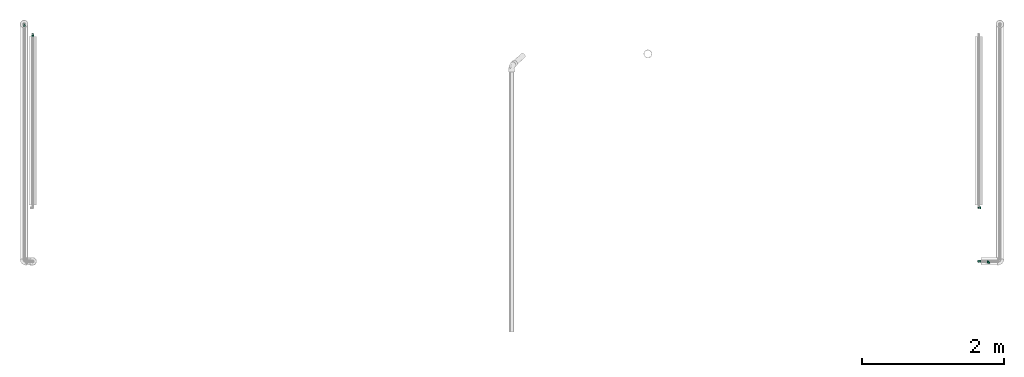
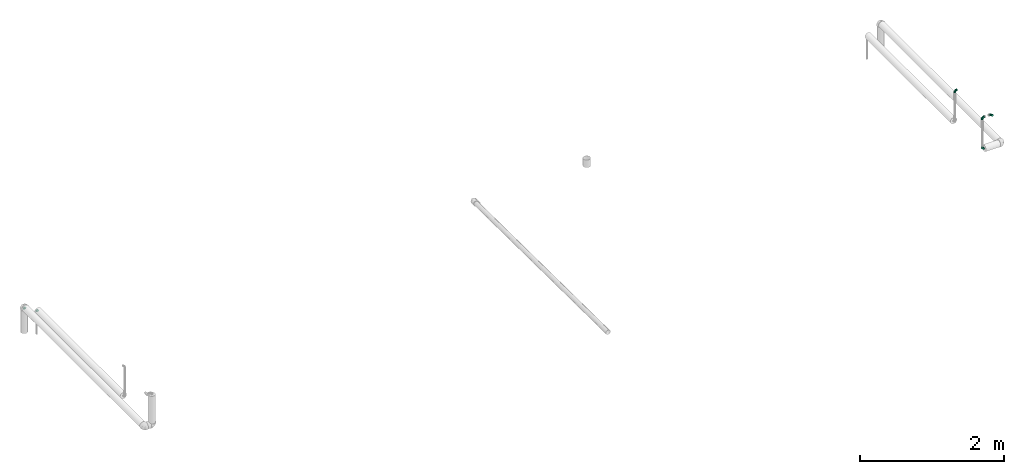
# One storey, part 10 of 17: 6 flow fittings.
"""IFC2X3 building model written with IfcOpenShell, lengths in millimetres."""

import ifcopenshell
import ifcopenshell.guid

model = None  # the IFC model being written
_history = None  # IfcOwnerHistory: only IFC2X3 demands one
_inside = {}  # id of a spatial element -> (the spatial element, [elements in it])
_under = {}  # id of a project, library or spatial element -> (it, [spatial elements below it])
_declared = {}  # id of a project -> (the project, [libraries it declares])
_typed = {}  # id of a type object -> (the type object, [elements of that type])
_made_of = {}  # id of a material, layer set ... -> (it, [elements and type objects made of it])


def new_model(schema):
    """Start an empty IFC model of exactly this schema.

    Asked for "IFC4X3", IfcOpenShell would pick the latest addendum, in which some entities
    have other attributes; the version numbers below select the first issue.
    IFC2X3 requires an IfcOwnerHistory on every rooted entity: one is made here for all.
    """
    global model, _history
    if schema == "IFC4X3":
        model = ifcopenshell.file(schema_version=(4, 3, 0, 0))
    else:
        model = ifcopenshell.file(schema=schema)
    _inside.clear()
    _under.clear()
    _declared.clear()
    _typed.clear()
    _made_of.clear()
    _history = None
    if model.schema == "IFC2X3":
        org = make("IfcOrganization", Name="unknown")
        user = make(
            "IfcPersonAndOrganization",
            ThePerson=make("IfcPerson", FamilyName="unknown"),
            TheOrganization=org,
        )
        app = make(
            "IfcApplication",
            ApplicationDeveloper=org,
            Version="unknown",
            ApplicationFullName="unknown",
            ApplicationIdentifier="unknown",
        )
        _history = make(
            "IfcOwnerHistory",
            OwningUser=user,
            OwningApplication=app,
            ChangeAction="ADDED",
            CreationDate=0,
        )
    return model


def make(cls, **values):
    """One entity of the class cls with the attributes given. An attribute that is None is left unset."""
    return model.create_entity(
        cls, **{name: value for name, value in values.items() if value is not None}
    )


def entity(cls, *values):
    """Any entity or typed value of the class cls, its attributes in the order of the schema. None: left unset."""
    e = model.create_entity(cls)
    for i, value in enumerate(values):
        if value is not None:
            e[i] = value
    return e


def rooted(cls, **values):
    """An entity with a GlobalId (a new one), such as an element, a storey or a relation."""
    return make(cls, GlobalId=ifcopenshell.guid.new(), OwnerHistory=_history, **values)


def si_unit(unit_type, name, prefix=None):
    """IfcSIUnit, for example si_unit("LENGTHUNIT", "METRE", prefix="MILLI")."""
    return make("IfcSIUnit", UnitType=unit_type, Prefix=prefix, Name=name)


def converted_unit(unit_type, name, factor, base, dimensions=None, offset=None):
    """IfcConversionBasedUnit, such as the inch: factor (a typed value) times the base unit."""
    return make(
        "IfcConversionBasedUnit"
        if offset is None
        else "IfcConversionBasedUnitWithOffset",
        ConversionOffset=offset,
        Dimensions=None
        if dimensions is None
        else entity("IfcDimensionalExponents", *dimensions),
        UnitType=unit_type,
        Name=name,
        ConversionFactor=make(
            "IfcMeasureWithUnit", ValueComponent=factor, UnitComponent=base
        ),
    )


def derived_unit(unit_type, elements):
    """IfcDerivedUnit: a product of units, each with its exponent."""
    return make(
        "IfcDerivedUnit",
        Elements=[
            make("IfcDerivedUnitElement", Unit=unit, Exponent=power)
            for unit, power in elements
        ],
        UnitType=unit_type,
    )


def assignment(units):
    """IfcUnitAssignment: the units of a project."""
    return None if units is None else make("IfcUnitAssignment", Units=units)


def point(xyz):
    """IfcCartesianPoint."""
    return None if xyz is None else make("IfcCartesianPoint", Coordinates=xyz)


def direction(xyz):
    """IfcDirection."""
    return None if xyz is None else make("IfcDirection", DirectionRatios=xyz)


def frame(location, z_axis=None, x_axis=None):
    """IfcAxis2Placement3D, a coordinate frame: its origin and axes. An axis left out is left unset."""
    return make(
        "IfcAxis2Placement3D",
        Location=point(location),
        Axis=direction(z_axis),
        RefDirection=direction(x_axis),
    )


def origin_with_axes():
    """The frame at (0, 0, 0) with the z axis (0, 0, 1) and the x axis (1, 0, 0) written out."""
    return frame((0.0, 0.0, 0.0), z_axis=(0.0, 0.0, 1.0), x_axis=(1.0, 0.0, 0.0))


def place(relative_to, where):
    """IfcLocalPlacement: puts the frame where relative to a parent placement (None: the world)."""
    return make(
        "IfcLocalPlacement", PlacementRelTo=relative_to, RelativePlacement=where
    )


def context(
    kind, dimensions, precision=None, world=None, true_north=None, identifier=None
):
    """IfcGeometricRepresentationContext, for example the 3D "Model" context."""
    return make(
        "IfcGeometricRepresentationContext",
        ContextIdentifier=identifier,
        ContextType=kind,
        CoordinateSpaceDimension=dimensions,
        Precision=precision,
        WorldCoordinateSystem=world,
        TrueNorth=true_north,
    )


def subcontext(parent, identifier, kind, view, scale=None):
    """IfcGeometricRepresentationSubContext, for example "Body" below "Model"."""
    return make(
        "IfcGeometricRepresentationSubContext",
        ContextIdentifier=identifier,
        ContextType=kind,
        ParentContext=parent,
        TargetScale=scale,
        TargetView=view,
    )


def project(units=None, contexts=None):
    """IfcProject with its units and contexts."""
    return rooted(
        "IfcProject",
        Name="project",
        RepresentationContexts=contexts,
        UnitsInContext=assignment(units),
    )


def spatial(cls, under=None, at=None, **own):
    """A site, building, storey or space (cls), placed at a placement, below another one or the project."""
    s = rooted(cls, ObjectPlacement=at, **own)
    if under is not None:
        _under.setdefault(under.id(), (under, []))[1].append(s)
    return s


def faces_of(points, faces, orient=None, outer=None):
    """IfcFace entities. A face is a list of loops; a loop is a list of indices into points, from 0.

    orient and outer hold one flag for each loop. By default every Orientation is true, the
    first loop of a face is its IfcFaceOuterBound and the others are IfcFaceBound.
    """
    made = []
    for i, loops in enumerate(faces):
        bounds = []
        for j, loop in enumerate(loops):
            is_outer = j == 0 if outer is None else outer[i][j]
            bounds.append(
                make(
                    "IfcFaceOuterBound" if is_outer else "IfcFaceBound",
                    Bound=make("IfcPolyLoop", Polygon=[points[k] for k in loop]),
                    Orientation=True if orient is None else orient[i][j],
                )
            )
        made.append(make("IfcFace", Bounds=bounds))
    return made


def open_shell(faces, orient=None, outer=None):
    """The faces of one IfcOpenShell. surface_model builds it on its shared points."""
    return ("IfcOpenShell", faces, orient, outer)


def surface_model(cls, points, shells):
    """IfcFaceBasedSurfaceModel or IfcShellBasedSurfaceModel (cls): surfaces that need not close."""
    shared = [point(p) for p in points]
    made = [make(c, CfsFaces=faces_of(shared, fs, o, b)) for c, fs, o, b in shells]
    if cls == "IfcFaceBasedSurfaceModel":
        return make(cls, FbsmFaces=made)
    return make(cls, SbsmBoundary=made)


def shape(context_of_items, identifier, shape_type, items):
    """IfcShapeRepresentation: the items that make up one representation, for example the "Body"."""
    return make(
        "IfcShapeRepresentation",
        ContextOfItems=context_of_items,
        RepresentationIdentifier=identifier,
        RepresentationType=shape_type,
        Items=items,
    )


def source(mapping_origin, context_of_items, identifier, shape_type, items):
    """IfcRepresentationMap: a shape defined once, which mapped items show again and again."""
    return make(
        "IfcRepresentationMap",
        MappingOrigin=mapping_origin,
        MappedRepresentation=shape(context_of_items, identifier, shape_type, items),
    )


def transform(
    local_origin,
    x_axis=None,
    y_axis=None,
    z_axis=None,
    scale=None,
    scale2=None,
    scale3=None,
    uniform=True,
):
    """IfcCartesianTransformationOperator3D, or its non-uniform kind. x_axis, y_axis, z_axis: its Axis1, 2, 3."""
    if uniform:
        return make(
            "IfcCartesianTransformationOperator3D",
            Axis1=direction(x_axis),
            Axis2=direction(y_axis),
            LocalOrigin=point(local_origin),
            Scale=scale,
            Axis3=direction(z_axis),
        )
    return make(
        "IfcCartesianTransformationOperator3DnonUniform",
        Axis1=direction(x_axis),
        Axis2=direction(y_axis),
        LocalOrigin=point(local_origin),
        Scale=scale,
        Axis3=direction(z_axis),
        Scale2=scale2,
        Scale3=scale3,
    )


def mapped(mapping_source, mapping_target):
    """IfcMappedItem: shows the shape of a source again, moved by a transform."""
    return make(
        "IfcMappedItem", MappingSource=mapping_source, MappingTarget=mapping_target
    )


def made_of(thing, what):
    """Note that an element or type object is made of a material, layer set ...; save() writes the relation."""
    if what is not None:
        _made_of.setdefault(what.id(), (what, []))[1].append(thing)
    return thing


def type_object(cls, material=None, **own):
    """A type object (cls), such as IfcWallType, which elements share."""
    return made_of(rooted(cls, **own), material)


def element(
    cls,
    number,
    at=None,
    inside=None,
    cuts=None,
    type_object=None,
    material=None,
    context=None,
    identifier="Body",
    shape_type=None,
    held_by="IfcProductDefinitionShape",
    body=None,
    shapes=None,
    **own,
):
    """One element of the class cls, such as IfcWall. Its Tag is "e" and its number.

    at: its placement. inside: the storey or other place that contains it. cuts: it is an
    opening in that element (IfcRelVoidsElement). A single representation is given by context,
    identifier, shape_type and body (its items); several are given by shapes. held_by: the class
    of the entity that holds the representations. save() writes the other relations.
    """
    e = rooted(cls, Tag="e%d" % number, ObjectPlacement=at, **own)
    if body is not None:
        shapes = [shape(context, identifier, shape_type, body)]
    if shapes is not None:
        e.Representation = make(held_by, Representations=shapes)
    if inside is not None:
        _inside.setdefault(inside.id(), (inside, []))[1].append(e)
    if cuts is not None:
        rooted(
            "IfcRelVoidsElement", RelatingBuildingElement=cuts, RelatedOpeningElement=e
        )
    if type_object is not None:
        _typed.setdefault(type_object.id(), (type_object, []))[1].append(e)
    return made_of(e, material)


def aggregate(whole, parts):
    """IfcRelAggregates: a whole, such as a stair, and the parts it consists of."""
    return rooted("IfcRelAggregates", RelatingObject=whole, RelatedObjects=parts)


def save(model, path):
    """Write the relations noted so far, then the file.

    IfcRelAggregates (storeys below a building ...), IfcRelContainedInSpatialStructure (elements
    in a storey), IfcRelDefinesByType, IfcRelAssociatesMaterial and IfcRelDeclares: one each for
    every whole, place, type object, material and project.
    """
    for whole, parts in _under.values():
        aggregate(whole, parts)
    for where, things in _inside.values():
        rooted(
            "IfcRelContainedInSpatialStructure",
            RelatedElements=things,
            RelatingStructure=where,
        )
    for kind, things in _typed.values():
        rooted("IfcRelDefinesByType", RelatedObjects=things, RelatingType=kind)
    for what, things in _made_of.values():
        rooted("IfcRelAssociatesMaterial", RelatedObjects=things, RelatingMaterial=what)
    for by, libraries in _declared.values():
        rooted("IfcRelDeclares", RelatingContext=by, RelatedDefinitions=libraries)
    model.write(path)


model = new_model("IFC2X3")

# Units and contexts
model_context = context("Model", 3, precision=0.01, world=frame((0.0, 4.29681676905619e-09, 0.0)), true_north=direction((4.01073788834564e-13, 1.0)))
plan_context = context("Plan", 3, precision=0.01, world=frame((0.0, 4.29681676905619e-09, 0.0)), true_north=direction((4.01073788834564e-13, 1.0)))
body_context = subcontext(model_context, "Body", "Model", "MODEL_VIEW")
ifc_project = project(units=[converted_unit("PLANEANGLEUNIT", "DEGREE", entity("IfcPositiveLengthMeasure", 0.0174532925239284), si_unit("PLANEANGLEUNIT", "RADIAN"), dimensions=[0, 0, 0, 0, 0, 0, 0]), si_unit("AREAUNIT", "SQUARE_METRE"), si_unit("LENGTHUNIT", "METRE", prefix="MILLI"), si_unit("MASSUNIT", "GRAM", prefix="KILO"), si_unit("POWERUNIT", "WATT"), si_unit("PRESSUREUNIT", "PASCAL", prefix="KILO"), si_unit("FORCEUNIT", "NEWTON", prefix="KILO"), si_unit("ELECTRICVOLTAGEUNIT", "VOLT"), si_unit("ELECTRICCURRENTUNIT", "AMPERE"), si_unit("THERMODYNAMICTEMPERATUREUNIT", "DEGREE_CELSIUS"), si_unit("TIMEUNIT", "SECOND"), si_unit("VOLUMEUNIT", "CUBIC_METRE"), derived_unit("LINEARVELOCITYUNIT", [(si_unit("LENGTHUNIT", "METRE"), 1), (si_unit("TIMEUNIT", "SECOND"), -1)]), derived_unit("VOLUMETRICFLOWRATEUNIT", [(si_unit("VOLUMEUNIT", "CUBIC_METRE"), 1), (si_unit("TIMEUNIT", "SECOND"), -1)]), derived_unit("THERMALTRANSMITTANCEUNIT", [(si_unit("POWERUNIT", "WATT"), 1), (si_unit("THERMODYNAMICTEMPERATUREUNIT", "KELVIN"), -1), (si_unit("AREAUNIT", "SQUARE_METRE"), -1)]), derived_unit("SOUNDPRESSUREUNIT", [(si_unit("PRESSUREUNIT", "PASCAL"), 1)])], contexts=[model_context, plan_context])

# Site, building, storey
site_placement = place(None, frame((0.0, -4.29681676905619e-09, 0.0), z_axis=(0.0, 0.0, 1.0), x_axis=(1.0, 0.0, 0.0)))
site = spatial("IfcSite", under=ifc_project, at=site_placement, Name="ENGM", CompositionType="ELEMENT")
building_placement = place(site_placement, frame((0.0, 4.29681676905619e-09, 0.0), z_axis=(0.0, 0.0, 1.0), x_axis=(1.0, 0.0, 0.0)))
building = spatial("IfcBuilding", under=site, at=building_placement, Name="TI", CompositionType="ELEMENT")
storey_placement = place(building_placement, frame((0.0, 0.0, 207370.0), z_axis=(0.0, 0.0, 1.0), x_axis=(1.0, 0.0, 0.0)))
storey = spatial("IfcBuildingStorey", under=building, at=storey_placement, Name="Nivå E", CompositionType="ELEMENT", Elevation=207370.0)

# Flow fittings
pipe_fitting_type = type_object("IfcPipeFittingType", Name="magi_pipe_fe_elbow_short_001", PredefinedType="BEND")
shared_shape_1 = source(origin_with_axes(), body_context, "Body", "SurfaceModel", [
    surface_model("IfcShellBasedSurfaceModel", [(-33.8, 4.37404, -16.32415), (-33.8, 0.0, -16.9), (-33.8, 11.9501, -11.9501), (-33.8, 8.45, -14.63583), (-33.8, 16.32415, -4.37404), (-33.8, 14.63583, -8.45), (-33.8, -14.63583, -8.45), (-33.8, -16.32415, -4.37404), (-33.8, -8.45, 14.63583), (-33.8, -11.9501, -11.9501), (-33.8, -8.45, -14.63583), (-33.8, -4.37404, -16.32415), (-33.8, -16.9, 0.0), (-33.8, -16.32415, 4.37404), (-33.8, 11.9501, 11.9501), (-33.8, 14.63583, 8.45), (-33.8, 16.32415, 4.37404), (-33.8, 4.37404, 16.32415), (-33.8, 8.45, 14.63583), (-33.8, -14.63583, 8.45), (-33.8, -11.9501, 11.9501), (-33.8, -4.37404, 16.32415), (-33.8, 0.0, 16.9), (-33.8, 16.9, 0.0), (-11.9501, 33.8, -11.9501), (0.0, 33.8, -16.9), (-4.37404, 33.8, -16.32415), (-8.45, 33.8, -14.63583), (-14.63583, 33.8, -8.45), (-16.32415, 33.8, -4.37404), (14.63583, 33.8, -8.45), (8.45, 33.8, 14.63583), (16.32415, 33.8, -4.37404), (8.45, 33.8, -14.63583), (11.9501, 33.8, -11.9501), (4.37404, 33.8, -16.32415), (16.32415, 33.8, 4.37404), (16.9, 33.8, 0.0), (-11.9501, 33.8, 11.9501), (-16.32415, 33.8, 4.37404), (-14.63583, 33.8, 8.45), (-8.45, 33.8, 14.63583), (-4.37404, 33.8, 16.32415), (11.9501, 33.8, 11.9501), (14.63583, 33.8, 8.45), (0.0, 33.8, 16.9), (4.37404, 33.8, 16.32415), (-16.9, 33.8, 0.0), (-24.79389, -13.12945, 9.48721), (-22.19287, -9.75018, 12.59315), (-24.09897, -14.97035, 0.0), (-14.93934, -10.76256, 8.5297), (-22.46095, -14.75051, 5.27077), (14.75051, 22.46094, 5.27077), (11.9251, 13.23888, 4.33236), (13.04069, 14.39795, 0.0), (7.71387, 13.68847, 11.55891), (9.75018, 22.19287, 12.59315), (4.10169, 13.0571, 14.04018), (-24.84007, -6.39063, 15.2048), (-25.81779, -2.23879, 16.61097), (-23.66549, 2.59054, 16.87119), (-26.50418, 14.06512, 11.08152), (-24.21253, 17.66365, 7.72657), (-29.58514, 15.86957, 7.00283), (-6.17382, -7.5455, 0.0), (-13.23888, -11.9251, 4.33236), (-14.39795, -13.04069, 0.0), (-17.81434, 18.87373, 11.97104), (-6.30846, 29.15138, 15.82987), (-2.31622, 25.28002, 16.85849), (-29.23923, 10.23435, 13.77053), (-1.45439, -2.85688, 7.61475), (-0.28326, 0.34872, 10.09509), (-5.74484, -4.04709, 10.4122), (-4.41137, 11.31918, 16.59407), (-8.39727, 3.10034, 15.7812), (-1.72649, 9.1306, 15.53089), (-17.39909, 24.75344, 7.64977), (-26.19233, 20.0512, 0.0), (-28.14518, 17.29657, 4.25857), (-26.05147, 6.6281, 15.96447), (-5.87354, 16.61944, 16.86968), (-12.51807, 12.51807, 16.48937), (-10.06312, 7.38516, 16.81295), (-3.01882, 3.01882, 13.81718), (-13.0571, -4.10169, 14.04018), (-16.82553, -0.15166, 16.38038), (10.76256, 14.93934, 8.5297), (13.12945, 24.79389, 9.48721), (6.39063, 24.84007, 15.2048), (2.23879, 25.81779, 16.61097), (-13.68847, -7.71387, 11.55891), (-7.30894, 22.89991, 16.09489), (-10.67958, 26.17414, 14.008), (-12.78295, 18.26924, 15.06066), (-13.88562, 22.45231, 12.93244), (-18.04944, 15.16501, 14.04434), (-23.11658, 20.08178, 4.02986), (-21.84989, 21.84989, 0.0), (-18.55817, 25.48277, 3.93065), (-13.95142, 26.94732, 11.03289), (-18.57098, 7.23906, 16.59756), (-16.58335, 4.14122, 16.89279), (-17.96666, 11.46709, 15.63151), (-9.84453, 17.54304, 16.18938), (0.15166, 16.82553, 16.38038), (-23.27207, 11.47201, 14.23154), (3.84842, 5.86994, 10.70473), (-8.0212, -7.54413, 7.93275), (1.00345, -2.19508, 4.57414), (5.13203, 3.01004, 5.90201), (5.24161, 1.7543, 2.53265), (8.70457, 7.04947, 3.99182), (-20.0512, 26.19233, 0.0), (8.4852, 8.76699, 7.09296), (-4.55488, -6.72064, 4.90681), (2.05031, -2.05031, 0.0), (7.5455, 6.17382, 0.0), (-26.75399, 2.1369, -16.845), (-14.61995, 24.73803, -11.27736), (-28.45274, -13.45335, -9.81895), (-26.00469, 6.63555, -15.96645), (-23.06726, 20.04573, -4.26202), (-13.80647, -4.26506, -14.17873), (-14.67501, -0.21081, -16.07388), (-6.7902, -0.2828, -13.8478), (-24.53586, 11.08096, -14.13417), (-26.72048, 14.00837, -11.05776), (10.0967, 24.44989, -12.75976), (5.83237, 21.40218, -15.03047), (6.66249, 28.54238, -15.38093), (-20.38182, 15.48705, -12.74596), (12.53268, 21.23441, -9.15363), (12.54494, 15.67504, -5.54878), (9.7522, 12.89279, -8.66343), (-15.65186, 19.64213, -13.01327), (-12.03528, 20.66498, -14.67665), (-15.61907, 15.61906, -14.83879), (-25.56551, -15.26206, 0.0), (-24.65452, -15.12934, -5.50955), (13.45335, 28.45274, -9.81895), (15.12934, 24.65452, -5.50955), (-7.35442, -8.31014, -5.65563), (-15.67504, -12.54494, -5.54878), (-24.44989, -10.0967, -12.75976), (0.16522, 0.41303, -9.71728), (-5.70658, -5.33066, -8.89288), (-5.13869, -2.37198, -11.53565), (-21.23441, -12.53268, -9.15363), (0.71146, 7.93863, -14.09382), (0.21081, 14.67501, -16.07388), (3.49291, 14.42772, -14.76381), (-24.89911, -2.13088, -16.591), (-28.54238, -6.66249, -15.38093), (-18.44386, -7.71663, -13.26957), (2.13088, 24.89911, -16.591), (-28.64342, 17.44413, -2.89318), (1.70017, -1.28722, -5.09504), (-16.57067, 26.81947, -7.36596), (-17.69055, 27.4263, -3.76405), (-12.89279, -9.7522, -8.66343), (-5.96611, 5.96611, -15.95814), (-20.53709, 20.09345, -8.28985), (-2.1369, 26.75399, -16.845), (-6.89872, 24.58781, -16.02578), (-10.60739, 26.53157, -13.98044), (-21.40218, -5.83237, -15.03047), (2.93192, 5.89627, -11.55917), (6.89393, 12.61842, -11.82233), (5.58056, 5.95325, -8.79455), (-3.99512, 18.61798, -16.89635), (8.31014, 7.35442, -5.65563), (-9.1383, 9.86148, -16.89041), (-9.99983, 16.02119, -16.39699), (-16.68576, 9.78031, -16.34199), (-27.01915, 16.61158, -7.12979), (15.26206, 25.56551, 0.0), (-18.61798, 3.99512, -16.89635), (-19.37495, 27.82495, 0.0), (-12.61842, -6.89393, -11.82233), (-18.84705, 19.14018, -10.96545), (14.97035, 24.09897, 0.0)], [open_shell([[[0, 1, 2]], [[3, 0, 2]], [[4, 5, 2]], [[6, 2, 1]], [[2, 7, 8]], [[9, 6, 10]], [[1, 11, 10]], [[10, 6, 1]], [[2, 6, 7]], [[12, 13, 7]], [[4, 2, 14]], [[4, 15, 16]], [[4, 14, 15]], [[17, 18, 14]], [[14, 2, 8]], [[17, 14, 8]], [[19, 20, 13]], [[20, 7, 13]], [[21, 22, 8]], [[20, 8, 7]], [[8, 22, 17]], [[4, 16, 23]], [[24, 25, 26]], [[24, 26, 27]], [[24, 28, 29]], [[25, 24, 30]], [[31, 32, 24]], [[33, 30, 34]], [[33, 35, 25]], [[25, 30, 33]], [[32, 30, 24]], [[32, 36, 37]], [[38, 24, 29]], [[39, 40, 29]], [[40, 38, 29]], [[38, 41, 42]], [[38, 31, 24]], [[31, 38, 42]], [[36, 43, 44]], [[36, 32, 43]], [[31, 45, 46]], [[32, 31, 43]], [[42, 45, 31]], [[39, 29, 47]], [[20, 48, 49]], [[13, 12, 50]], [[51, 48, 52]], [[53, 54, 55]], [[48, 20, 19]], [[13, 52, 19]], [[56, 57, 58]], [[49, 8, 20]], [[49, 59, 8]], [[22, 60, 61]], [[62, 63, 64]], [[65, 66, 67]], [[57, 43, 31]], [[62, 68, 63]], [[42, 69, 70]], [[18, 71, 14]], [[21, 60, 22]], [[72, 73, 74]], [[75, 76, 77]], [[14, 62, 15]], [[40, 39, 78]], [[79, 23, 80]], [[64, 16, 15]], [[22, 61, 17]], [[17, 81, 18]], [[82, 83, 84]], [[74, 85, 86]], [[59, 86, 87]], [[88, 89, 57]], [[90, 31, 46]], [[44, 53, 36]], [[46, 45, 91]], [[54, 53, 88]], [[44, 89, 53]], [[92, 86, 49]], [[89, 44, 43]], [[8, 59, 21]], [[66, 52, 67]], [[93, 82, 70]], [[94, 95, 93]], [[96, 97, 95]], [[79, 98, 99]], [[41, 38, 94]], [[100, 99, 98]], [[68, 78, 63]], [[42, 41, 69]], [[23, 16, 80]], [[94, 93, 69]], [[78, 100, 98]], [[38, 101, 94]], [[70, 45, 42]], [[96, 94, 101]], [[13, 50, 52]], [[90, 57, 31]], [[57, 90, 58]], [[81, 17, 61]], [[102, 103, 84]], [[104, 81, 102]], [[38, 40, 101]], [[105, 95, 83]], [[93, 105, 82]], [[91, 70, 106]], [[71, 62, 14]], [[62, 107, 97]], [[86, 59, 49]], [[67, 52, 50]], [[60, 59, 87]], [[92, 49, 51]], [[86, 85, 76]], [[91, 90, 46]], [[106, 77, 58]], [[106, 58, 90]], [[58, 85, 108]], [[109, 74, 92]], [[72, 74, 109]], [[66, 51, 52]], [[72, 110, 111]], [[112, 113, 111]], [[56, 88, 57]], [[52, 48, 19]], [[49, 48, 51]], [[57, 89, 43]], [[53, 89, 88]], [[102, 81, 61]], [[71, 81, 107]], [[16, 64, 80]], [[63, 78, 98]], [[47, 114, 100]], [[100, 114, 99]], [[40, 78, 101]], [[68, 101, 78]], [[96, 95, 94]], [[104, 97, 107]], [[102, 84, 83]], [[106, 70, 82]], [[76, 84, 87]], [[82, 84, 75]], [[70, 91, 45]], [[90, 91, 106]], [[59, 60, 21]], [[61, 60, 87]], [[73, 85, 74]], [[108, 111, 115]], [[102, 61, 103]], [[104, 102, 83]], [[95, 104, 83]], [[81, 104, 107]], [[95, 97, 104]], [[62, 97, 68]], [[61, 87, 103]], [[87, 84, 103]], [[86, 76, 87]], [[77, 76, 85]], [[58, 77, 85]], [[75, 77, 106]], [[82, 75, 106]], [[76, 75, 84]], [[81, 71, 18]], [[62, 71, 107]], [[94, 69, 41]], [[70, 69, 93]], [[62, 64, 15]], [[80, 63, 98]], [[63, 80, 64]], [[80, 98, 79]], [[66, 65, 116]], [[109, 66, 116]], [[111, 113, 115]], [[117, 116, 65]], [[109, 92, 51]], [[111, 110, 112]], [[118, 55, 54]], [[74, 86, 92]], [[58, 108, 56]], [[115, 56, 108]], [[66, 109, 51]], [[72, 109, 116]], [[110, 72, 116]], [[73, 111, 108]], [[116, 117, 110]], [[112, 110, 117]], [[117, 118, 112]], [[113, 118, 54]], [[118, 113, 112]], [[115, 54, 88]], [[54, 115, 113]], [[115, 88, 56]], [[111, 73, 72]], [[85, 73, 108]], [[78, 39, 100]], [[47, 100, 39]], [[101, 68, 96]], [[96, 68, 97]], [[82, 105, 83]], [[93, 95, 105]], [[0, 119, 1]], [[28, 24, 120]], [[9, 121, 6]], [[3, 122, 0]], [[99, 123, 79]], [[124, 125, 126]], [[127, 2, 128]], [[129, 130, 131]], [[127, 128, 132]], [[133, 134, 135]], [[136, 137, 138]], [[127, 3, 2]], [[67, 139, 140]], [[133, 141, 142]], [[140, 7, 6]], [[143, 65, 144]], [[145, 9, 10]], [[146, 147, 148]], [[144, 140, 149]], [[150, 151, 152]], [[153, 11, 1]], [[10, 154, 145]], [[149, 145, 155]], [[154, 10, 11]], [[142, 134, 133]], [[35, 156, 25]], [[23, 79, 157]], [[147, 158, 143]], [[159, 160, 29]], [[144, 161, 143]], [[162, 151, 150]], [[29, 28, 159]], [[120, 163, 159]], [[33, 34, 129]], [[25, 164, 26]], [[26, 164, 165]], [[141, 34, 30]], [[24, 27, 166]], [[123, 160, 163]], [[156, 35, 131]], [[154, 153, 167]], [[122, 3, 127]], [[168, 169, 170]], [[171, 156, 151]], [[26, 165, 27]], [[131, 35, 33]], [[141, 129, 34]], [[167, 153, 125]], [[135, 134, 172]], [[132, 136, 138]], [[2, 5, 128]], [[169, 130, 129]], [[30, 32, 142]], [[171, 173, 174]], [[175, 122, 127]], [[157, 176, 4]], [[134, 55, 118]], [[166, 27, 165]], [[174, 165, 171]], [[136, 166, 137]], [[121, 140, 6]], [[139, 12, 7]], [[32, 37, 177]], [[169, 129, 133]], [[151, 156, 130]], [[164, 156, 171]], [[152, 169, 150]], [[151, 162, 173]], [[167, 124, 155]], [[121, 145, 149]], [[119, 153, 1]], [[178, 173, 125]], [[178, 125, 153]], [[125, 162, 126]], [[161, 144, 149]], [[139, 7, 140]], [[32, 177, 142]], [[55, 142, 177]], [[176, 128, 5]], [[127, 132, 138]], [[175, 127, 138]], [[119, 122, 178]], [[120, 159, 28]], [[160, 99, 179]], [[165, 174, 137]], [[120, 24, 166]], [[160, 47, 29]], [[79, 123, 157]], [[123, 163, 176]], [[160, 123, 99]], [[135, 170, 169]], [[126, 162, 150]], [[146, 170, 158]], [[147, 143, 161]], [[126, 150, 168]], [[126, 180, 124]], [[128, 176, 163]], [[5, 4, 176]], [[158, 65, 143]], [[67, 140, 144]], [[142, 55, 134]], [[134, 118, 172]], [[122, 119, 0]], [[153, 119, 178]], [[156, 164, 25]], [[165, 164, 171]], [[171, 151, 173]], [[175, 138, 174]], [[125, 173, 162]], [[175, 173, 178]], [[173, 175, 174]], [[122, 175, 178]], [[149, 180, 161]], [[126, 148, 180]], [[180, 147, 161]], [[158, 147, 146]], [[170, 135, 172]], [[169, 133, 135]], [[158, 170, 172]], [[170, 146, 168]], [[168, 146, 148]], [[150, 169, 168]], [[163, 181, 128]], [[181, 120, 136]], [[180, 148, 147]], [[168, 148, 126]], [[181, 136, 132]], [[166, 136, 120]], [[165, 137, 166]], [[174, 138, 137]], [[128, 181, 132]], [[120, 181, 163]], [[160, 159, 163]], [[47, 160, 179]], [[176, 157, 123]], [[23, 157, 4]], [[129, 131, 33]], [[156, 131, 130]], [[142, 141, 30]], [[129, 141, 133]], [[153, 154, 11]], [[145, 154, 167]], [[145, 121, 9]], [[140, 121, 149]], [[151, 130, 152]], [[158, 118, 117]], [[67, 144, 65]], [[169, 152, 130]], [[118, 158, 172]], [[158, 117, 65]], [[155, 124, 180]], [[125, 124, 167]], [[149, 155, 180]], [[167, 155, 145]], [[53, 55, 182]], [[182, 36, 53]], [[37, 36, 182]]])]),
])
for number, where, z_axis, x_axis, name in (
    (1, (598669.97776, 570723.24678, 2946.92527000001), (0.0, 1.0, 0.0), (-1.0, 0.0, 0.0), "magi_pipe_fe_elbow_short_001"),
    (2, (598669.97776, 571476.94173, 3481.39999999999), (0.0, 1.0, 0.0), (0.0, 0.0, 1.0), "magi_pipe_fe_elbow_short_001"),
    (3, (598669.97776, 570723.24678, 3481.39999999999), (0.0, 1.0, 0.0), (0.0, 0.0, 1.0), "magi_pipe_fe_elbow_short_001"),
    (4, (598816.17776, 570723.24678, 3481.39999999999), (0.0, 0.0, 1.0), (0.0, 1.0, 0.0), "magi_pipe_fe_elbow_short_001"),
):
    element("IfcFlowFitting", number, at=place(storey_placement, frame(where, z_axis=z_axis, x_axis=x_axis)), inside=storey, type_object=pipe_fitting_type, Name=name, context=body_context, shape_type="MappedRepresentation", body=[
        mapped(shared_shape_1, transform((0.0, 0.0, 0.0), scale=1.0)),
    ])
shared_shape_2 = source(origin_with_axes(), body_context, "Body", "SurfaceModel", [
    surface_model("IfcShellBasedSurfaceModel", [(-33.79942, 4.37404, -16.32415), (-33.79942, 0.0, -16.9), (-33.79942, 11.9501, -11.9501), (-33.79942, 8.45, -14.63583), (-33.79942, 16.32415, -4.37404), (-33.79942, 14.63583, -8.45), (-33.79942, -14.63583, -8.45), (-33.79942, -16.32415, -4.37404), (-33.79942, -8.45, 14.63583), (-33.79942, -11.9501, -11.9501), (-33.79942, -8.45, -14.63583), (-33.79942, -4.37404, -16.32415), (-33.79942, -16.9, 0.0), (-33.79942, -16.32415, 4.37404), (-33.79942, 11.9501, 11.9501), (-33.79942, 16.32415, 4.37404), (-33.79942, 14.63583, 8.45), (-33.79942, 4.37404, 16.32415), (-33.79942, 8.45, 14.63583), (-33.79942, -14.63583, 8.45), (-33.79942, -11.9501, 11.9501), (-33.79942, -4.37404, 16.32415), (-33.79942, 0.0, 16.9), (-33.79942, 16.9, 0.0), (16.32473, 33.79913, -4.37404), (16.32473, 33.79913, 4.37404), (16.90058, 33.79912, 0.0), (11.95069, 33.79921, 11.9501), (14.63641, 33.79916, 8.45), (8.45058, 33.79927, 14.63583), (0.00058, 33.79942, 16.9), (4.37463, 33.79934, 16.32415), (-24.79327, -13.12944, 9.48721), (-22.19226, -9.75017, 12.59315), (-24.09849, -14.97039, 0.0), (-14.9387, -10.76253, 8.52971), (-22.46034, -14.7505, 5.27078), (14.75089, 22.46009, 5.27078), (11.9253, 13.23803, 4.33235), (13.04102, 14.39734, 0.0), (7.7141, 13.68777, 11.55892), (9.75055, 22.1921, 12.59315), (4.10199, 13.05664, 14.04021), (-24.83949, -6.39062, 15.20481), (-25.81731, -2.23879, 16.61097), (-23.66498, 2.59054, 16.87119), (-26.50363, 14.06512, 11.08151), (-24.21205, 17.66361, 7.72654), (-29.58462, 15.86956, 7.00282), (-6.17349, -7.5457, 0.0), (-13.23824, -11.92507, 4.33235), (-14.39757, -13.04078, 0.0), (-17.81399, 18.87352, 11.97101), (-4.37346, 33.79949, 16.32415), (-6.30796, 29.15099, 15.82986), (-2.31578, 25.27952, 16.85849), (-29.23874, 10.23435, 13.77051), (-1.45386, -2.8568, 7.61493), (-0.28308, 0.34848, 10.09525), (-5.7445, -4.04716, 10.4123), (-4.41107, 11.31879, 16.59407), (-8.39687, 3.10031, 15.78123), (-1.72609, 9.13037, 15.5309), (-14.63525, 33.79967, 8.45), (-16.32356, 33.7997, 4.37404), (-17.39861, 24.75327, 7.64974), (-26.19172, 20.05117, 0.0), (-28.14463, 17.29656, 4.25858), (-26.05091, 6.62811, 15.96447), (-5.87324, 16.61918, 16.86967), (-12.51772, 12.51793, 16.48935), (-10.06285, 7.38502, 16.81296), (-3.01855, 3.0186, 13.81723), (-13.05671, -4.10176, 14.04021), (-16.82513, -0.15171, 16.38039), (10.76279, 14.93852, 8.52971), (13.12987, 24.79305, 9.48721), (6.39105, 24.83938, 15.20481), (2.23924, 25.81727, 16.61097), (-13.6879, -7.71386, 11.55892), (14.9708, 24.09823, 0.0), (-7.30852, 22.89959, 16.09488), (-10.67913, 26.17378, 14.00799), (-12.7825, 18.26904, 15.06066), (-13.88522, 22.452, 12.93243), (-18.04899, 15.16489, 14.04434), (-23.11606, 20.08173, 4.02985), (-21.84941, 21.84979, 0.0), (-8.44942, 33.79956, 14.63583), (-11.94952, 33.79962, 11.9501), (-18.55764, 25.48268, 3.93063), (-13.95095, 26.94699, 11.03288), (-18.57054, 7.23899, 16.59756), (-16.58297, 4.1412, 16.89279), (-17.96631, 11.46696, 15.6315), (-9.84413, 17.54281, 16.18937), (0.152, 16.82512, 16.38039), (-23.27165, 11.47197, 14.23152), (3.84874, 5.86944, 10.70463), (-8.02063, -7.54409, 7.93282), (1.00377, -2.19519, 4.57453), (5.13261, 3.00987, 5.90174), (5.24121, 1.75312, 2.53273), (8.70483, 7.04865, 3.99114), (-16.89942, 33.79971, 0.0), (-20.05072, 26.19207, 0.0), (8.48611, 8.76689, 7.09222), (-4.5542, -6.72052, 4.90697), (2.05059, -2.05062, 0.0), (7.54581, 6.17336, 0.0), (-26.7535, 2.1369, -16.84499), (-14.63525, 33.79967, -8.45), (-11.94952, 33.79962, -11.9501), (-14.61948, 24.73783, -11.27734), (-28.45219, -13.45334, -9.81896), (-26.00414, 6.63555, -15.96645), (-23.06675, 20.04568, -4.26201), (-13.80616, -4.26524, -14.17871), (-14.6746, -0.2109, -16.07388), (-6.79007, -0.28299, -13.84789), (-24.53539, 11.08094, -14.13415), (-26.71992, 14.00837, -11.05775), (10.09712, 24.44915, -12.75976), (5.83274, 21.40156, -15.03047), (6.66298, 28.54171, -15.38093), (-20.38138, 15.48694, -12.74596), (12.53306, 21.23367, -9.15365), (12.5452, 15.67424, -5.5488), (9.75235, 12.89197, -8.6635), (-15.65143, 19.64199, -13.01325), (-12.03492, 20.66473, -14.67661), (-15.61867, 15.61894, -14.83877), (-25.56493, -15.26208, 0.0), (-24.65395, -15.12934, -5.50956), (13.45384, 28.45196, -9.81896), (15.12976, 24.65369, -5.50956), (-7.3538, -8.31012, -5.65562), (-15.67445, -12.54493, -5.5488), (-24.44933, -10.0967, -12.75976), (0.16528, 0.41255, -9.71734), (-5.70612, -5.33084, -8.89277), (-5.13888, -2.37253, -11.53571), (-21.23389, -12.53269, -9.15365), (0.71168, 7.93821, -14.09385), (0.21115, 14.67459, -16.07388), (3.49319, 14.4272, -14.76382), (-24.89855, -2.13087, -16.591), (-28.54183, -6.66249, -15.38093), (-18.44335, -7.71672, -13.26953), (4.37463, 33.79934, -16.32415), (2.13131, 24.89851, -16.591), (0.00058, 33.79942, -16.9), (-28.64288, 17.44411, -2.89315), (1.70005, -1.28792, -5.09508), (-16.57016, 26.81932, -7.36593), (-17.69007, 27.42605, -3.76404), (-16.32356, 33.7997, -4.37404), (-12.89214, -9.75212, -8.6635), (-5.96581, 5.96592, -15.95817), (-20.53655, 20.09343, -8.28982), (8.45058, 33.79927, -14.63583), (11.95069, 33.79921, -11.9501), (-2.13643, 26.75354, -16.84499), (-4.37346, 33.79949, -16.32415), (-6.89829, 24.58741, -16.02577), (14.63641, 33.79916, -8.45), (-8.44942, 33.79956, -14.63583), (-10.60694, 26.53119, -13.98043), (-21.40166, -5.83237, -15.03047), (2.93218, 5.89579, -11.55914), (6.89418, 12.61784, -11.82236), (5.58065, 5.95252, -8.79451), (-3.99476, 18.61762, -16.89635), (8.31025, 7.35365, -5.65562), (-9.13798, 9.86125, -16.89041), (-9.99952, 16.02085, -16.39699), (-16.68558, 9.78016, -16.34196), (-27.01861, 16.61156, -7.1298), (15.26252, 25.56466, 0.0), (-18.61756, 3.99508, -16.89635), (-19.37441, 27.82475, 0.0), (-12.61796, -6.89397, -11.82236), (-18.84664, 19.14002, -10.96543)], [open_shell([[[0, 1, 2]], [[3, 0, 2]], [[4, 5, 2]], [[6, 2, 1]], [[2, 7, 8]], [[9, 6, 10]], [[1, 11, 10]], [[1, 10, 6]], [[6, 7, 2]], [[12, 13, 7]], [[4, 2, 14]], [[14, 15, 4]], [[16, 15, 14]], [[17, 18, 14]], [[2, 8, 14]], [[17, 14, 8]], [[19, 20, 13]], [[13, 20, 7]], [[21, 22, 8]], [[20, 8, 7]], [[8, 22, 17]], [[23, 4, 15]], [[24, 25, 26]], [[25, 27, 28]], [[24, 27, 25]], [[29, 30, 31]], [[20, 32, 33]], [[13, 12, 34]], [[35, 32, 36]], [[37, 38, 39]], [[32, 20, 19]], [[13, 36, 19]], [[40, 41, 42]], [[33, 8, 20]], [[33, 43, 8]], [[22, 44, 45]], [[46, 47, 48]], [[49, 50, 51]], [[41, 27, 29]], [[46, 52, 47]], [[53, 54, 55]], [[18, 56, 14]], [[21, 44, 22]], [[57, 58, 59]], [[60, 61, 62]], [[14, 46, 16]], [[63, 64, 65]], [[66, 23, 67]], [[48, 15, 16]], [[22, 45, 17]], [[17, 68, 18]], [[69, 70, 71]], [[59, 72, 73]], [[43, 73, 74]], [[75, 76, 41]], [[77, 29, 31]], [[28, 37, 25]], [[31, 30, 78]], [[38, 37, 75]], [[28, 76, 37]], [[79, 73, 33]], [[76, 28, 27]], [[8, 43, 21]], [[37, 39, 80]], [[80, 25, 37]], [[50, 36, 51]], [[81, 69, 55]], [[82, 83, 81]], [[84, 85, 83]], [[66, 86, 87]], [[88, 89, 82]], [[90, 87, 86]], [[52, 65, 47]], [[53, 88, 54]], [[23, 15, 67]], [[82, 81, 54]], [[65, 90, 86]], [[89, 91, 82]], [[55, 30, 53]], [[84, 82, 91]], [[13, 34, 36]], [[77, 41, 29]], [[41, 77, 42]], [[68, 17, 45]], [[92, 93, 71]], [[94, 68, 92]], [[89, 63, 91]], [[81, 83, 95]], [[81, 95, 69]], [[78, 55, 96]], [[56, 46, 14]], [[46, 97, 85]], [[73, 43, 33]], [[51, 36, 34]], [[44, 43, 74]], [[79, 33, 35]], [[73, 72, 61]], [[78, 77, 31]], [[26, 25, 80]], [[96, 62, 42]], [[96, 42, 77]], [[42, 72, 98]], [[99, 59, 79]], [[57, 59, 99]], [[50, 35, 36]], [[57, 100, 101]], [[102, 103, 101]], [[40, 75, 41]], [[36, 32, 19]], [[33, 32, 35]], [[41, 76, 27]], [[37, 76, 75]], [[92, 68, 45]], [[56, 68, 97]], [[15, 48, 67]], [[47, 65, 86]], [[104, 105, 90]], [[90, 105, 87]], [[63, 65, 91]], [[52, 91, 65]], [[84, 83, 82]], [[94, 85, 97]], [[92, 71, 70]], [[96, 55, 69]], [[61, 71, 74]], [[69, 71, 60]], [[55, 78, 30]], [[77, 78, 96]], [[43, 44, 21]], [[45, 44, 74]], [[58, 72, 59]], [[98, 101, 106]], [[92, 45, 93]], [[94, 92, 70]], [[83, 94, 70]], [[68, 94, 97]], [[83, 85, 94]], [[46, 85, 52]], [[45, 74, 93]], [[74, 71, 93]], [[73, 61, 74]], [[62, 61, 72]], [[42, 62, 72]], [[60, 62, 96]], [[69, 60, 96]], [[61, 60, 71]], [[68, 56, 18]], [[46, 56, 97]], [[82, 54, 88]], [[55, 54, 81]], [[46, 48, 16]], [[67, 47, 86]], [[47, 67, 48]], [[67, 86, 66]], [[50, 49, 107]], [[99, 50, 107]], [[101, 103, 106]], [[108, 107, 49]], [[99, 79, 35]], [[101, 100, 102]], [[109, 39, 38]], [[59, 73, 79]], [[42, 98, 40]], [[106, 40, 98]], [[50, 99, 35]], [[57, 99, 107]], [[100, 57, 107]], [[58, 101, 98]], [[107, 108, 100]], [[102, 100, 108]], [[108, 109, 102]], [[103, 109, 38]], [[109, 103, 102]], [[106, 38, 75]], [[38, 106, 103]], [[106, 75, 40]], [[101, 58, 57]], [[72, 58, 98]], [[65, 64, 90]], [[104, 90, 64]], [[91, 52, 84]], [[84, 52, 85]], [[83, 70, 95]], [[69, 95, 70]], [[0, 110, 1]], [[111, 112, 113]], [[9, 114, 6]], [[3, 115, 0]], [[87, 116, 66]], [[117, 118, 119]], [[120, 2, 121]], [[122, 123, 124]], [[120, 121, 125]], [[126, 127, 128]], [[129, 130, 131]], [[120, 3, 2]], [[51, 132, 133]], [[126, 134, 135]], [[133, 7, 6]], [[136, 49, 137]], [[138, 9, 10]], [[139, 140, 141]], [[137, 133, 142]], [[143, 144, 145]], [[146, 11, 1]], [[10, 147, 138]], [[142, 138, 148]], [[147, 10, 11]], [[135, 127, 126]], [[149, 150, 151]], [[23, 66, 152]], [[140, 153, 136]], [[154, 155, 156]], [[137, 157, 136]], [[158, 144, 143]], [[156, 111, 154]], [[113, 159, 154]], [[160, 161, 122]], [[151, 162, 163]], [[163, 162, 164]], [[134, 161, 165]], [[112, 166, 167]], [[116, 155, 159]], [[150, 149, 124]], [[147, 146, 168]], [[115, 3, 120]], [[169, 170, 171]], [[172, 150, 144]], [[163, 164, 166]], [[124, 149, 160]], [[134, 122, 161]], [[168, 146, 118]], [[128, 127, 173]], [[125, 129, 131]], [[2, 5, 121]], [[170, 123, 122]], [[165, 24, 135]], [[172, 174, 175]], [[176, 115, 120]], [[152, 177, 4]], [[127, 39, 109]], [[167, 166, 164]], [[175, 164, 172]], [[129, 167, 130]], [[114, 133, 6]], [[132, 12, 7]], [[24, 26, 178]], [[170, 122, 126]], [[144, 150, 123]], [[162, 150, 172]], [[145, 170, 143]], [[144, 158, 174]], [[168, 117, 148]], [[114, 138, 142]], [[110, 146, 1]], [[179, 174, 118]], [[179, 118, 146]], [[118, 158, 119]], [[157, 137, 142]], [[132, 7, 133]], [[24, 178, 135]], [[39, 135, 178]], [[177, 121, 5]], [[120, 125, 131]], [[176, 120, 131]], [[110, 115, 179]], [[113, 154, 111]], [[155, 87, 180]], [[164, 175, 130]], [[113, 112, 167]], [[155, 104, 156]], [[66, 116, 152]], [[116, 159, 177]], [[155, 116, 87]], [[128, 171, 170]], [[119, 158, 143]], [[139, 171, 153]], [[140, 136, 157]], [[119, 143, 169]], [[119, 181, 117]], [[121, 177, 159]], [[5, 4, 177]], [[153, 49, 136]], [[51, 133, 137]], [[135, 39, 127]], [[127, 109, 173]], [[115, 110, 0]], [[146, 110, 179]], [[150, 162, 151]], [[164, 162, 172]], [[172, 144, 174]], [[176, 131, 175]], [[118, 174, 158]], [[176, 174, 179]], [[174, 176, 175]], [[115, 176, 179]], [[142, 181, 157]], [[119, 141, 181]], [[181, 140, 157]], [[153, 140, 139]], [[171, 128, 173]], [[170, 126, 128]], [[153, 171, 173]], [[171, 139, 169]], [[169, 139, 141]], [[143, 170, 169]], [[159, 182, 121]], [[182, 113, 129]], [[181, 141, 140]], [[169, 141, 119]], [[182, 129, 125]], [[167, 129, 113]], [[164, 130, 167]], [[175, 131, 130]], [[121, 182, 125]], [[113, 182, 159]], [[155, 154, 159]], [[104, 155, 180]], [[177, 152, 116]], [[23, 152, 4]], [[122, 124, 160]], [[150, 124, 123]], [[135, 134, 165]], [[122, 134, 126]], [[146, 147, 11]], [[138, 147, 168]], [[138, 114, 9]], [[133, 114, 142]], [[144, 123, 145]], [[153, 109, 108]], [[51, 137, 49]], [[170, 145, 123]], [[109, 153, 173]], [[153, 108, 49]], [[148, 117, 181]], [[118, 117, 168]], [[142, 148, 181]], [[168, 148, 138]], [[112, 151, 163]], [[112, 163, 166]], [[160, 112, 111]], [[112, 160, 151]], [[111, 27, 24]], [[160, 165, 161]], [[160, 149, 151]], [[111, 165, 160]], [[24, 165, 111]], [[111, 156, 27]], [[104, 64, 63]], [[29, 104, 63]], [[89, 88, 53]], [[63, 89, 29]], [[53, 29, 89]], [[27, 104, 29]], [[53, 30, 29]], [[27, 156, 104]]])]),
])
for number, where, z_axis, x_axis, name in (
    (5, (585389.97776, 573914.96996, 2946.87002999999), (1.0, 0.0, 0.0), (0.0, 0.0, 1.0), "magi_pipe_fe_elbow_short_001"),
    (6, (585269.96633, 574054.33025, 2946.86762), (1.0, 0.0, 0.0), (0.0, 0.0, 1.0), "magi_pipe_fe_elbow_short_001"),
):
    element("IfcFlowFitting", number, at=place(storey_placement, frame(where, z_axis=z_axis, x_axis=x_axis)), inside=storey, type_object=pipe_fitting_type, Name=name, context=body_context, shape_type="MappedRepresentation", body=[
        mapped(shared_shape_2, transform((0.0, 0.0, 0.0), scale=1.0)),
    ])

save(model, "model.ifc")
